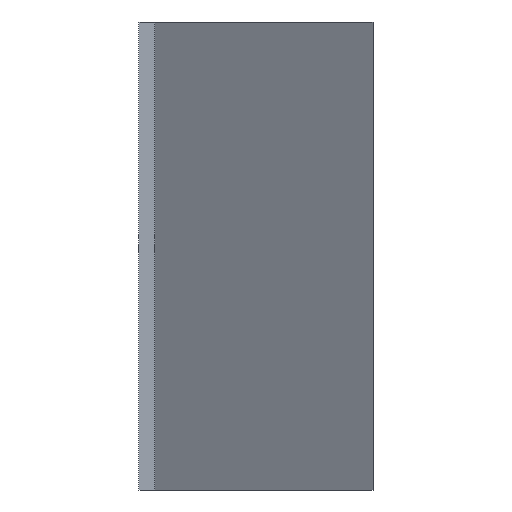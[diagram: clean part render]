
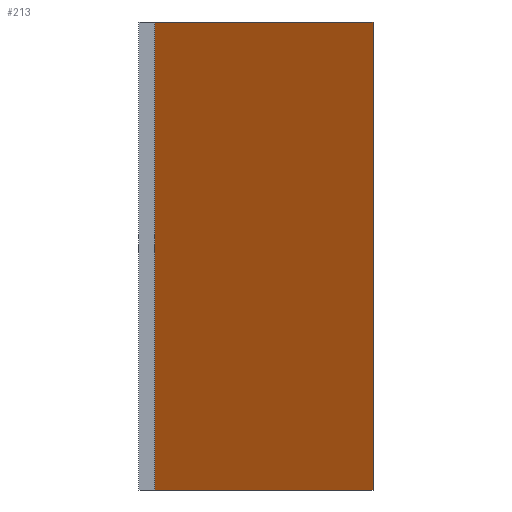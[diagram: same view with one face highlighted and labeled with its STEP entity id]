
A CAD part, left-side view. The second image highlights one B-rep face of the part: STEP entity #213.
In plain terms, the highlighted planar face has unit normal (-0.132, -0.991, 0).
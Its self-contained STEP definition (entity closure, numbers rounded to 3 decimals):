
#26=FACE_OUTER_BOUND('',#38,.T.);
#38=EDGE_LOOP('',(#178,#179,#180,#181));
#47=LINE('',#315,#71);
#54=LINE('',#328,#78);
#55=LINE('',#331,#79);
#63=LINE('',#346,#87);
#71=VECTOR('',#258,6.);
#78=VECTOR('',#267,21.186);
#79=VECTOR('',#270,21.186);
#87=VECTOR('',#284,6.);
#98=VERTEX_POINT('',#312);
#99=VERTEX_POINT('',#314);
#104=VERTEX_POINT('',#326);
#105=VERTEX_POINT('',#330);
#119=EDGE_CURVE('',#98,#99,#47,.T.);
#126=EDGE_CURVE('',#104,#98,#54,.T.);
#127=EDGE_CURVE('',#99,#105,#55,.T.);
#135=EDGE_CURVE('',#104,#105,#63,.T.);
#178=ORIENTED_EDGE('',*,*,#119,.F.);
#179=ORIENTED_EDGE('',*,*,#126,.F.);
#180=ORIENTED_EDGE('',*,*,#135,.T.);
#181=ORIENTED_EDGE('',*,*,#127,.F.);
#201=PLANE('',#231);
#213=ADVANCED_FACE('',(#26),#201,.T.);
#231=AXIS2_PLACEMENT_3D('',#345,#282,#283);
#258=DIRECTION('',(0.,0.,-1.));
#267=DIRECTION('',(0.991,-0.132,0.));
#270=DIRECTION('',(-0.991,0.132,0.));
#282=DIRECTION('center_axis',(-0.132,-0.991,0.));
#283=DIRECTION('ref_axis',(0.991,-0.132,0.));
#284=DIRECTION('',(0.,0.,-1.));
#312=CARTESIAN_POINT('',(28.487,-3.,3.));
#314=CARTESIAN_POINT('',(28.487,-3.,-3.));
#315=CARTESIAN_POINT('',(28.487,-3.,0.));
#326=CARTESIAN_POINT('',(7.487,-0.2,3.));
#328=CARTESIAN_POINT('',(28.487,-3.,3.));
#330=CARTESIAN_POINT('',(7.487,-0.2,-3.));
#331=CARTESIAN_POINT('',(28.487,-3.,-3.));
#345=CARTESIAN_POINT('Origin',(7.487,-0.2,0.));
#346=CARTESIAN_POINT('',(7.487,-0.2,0.));
